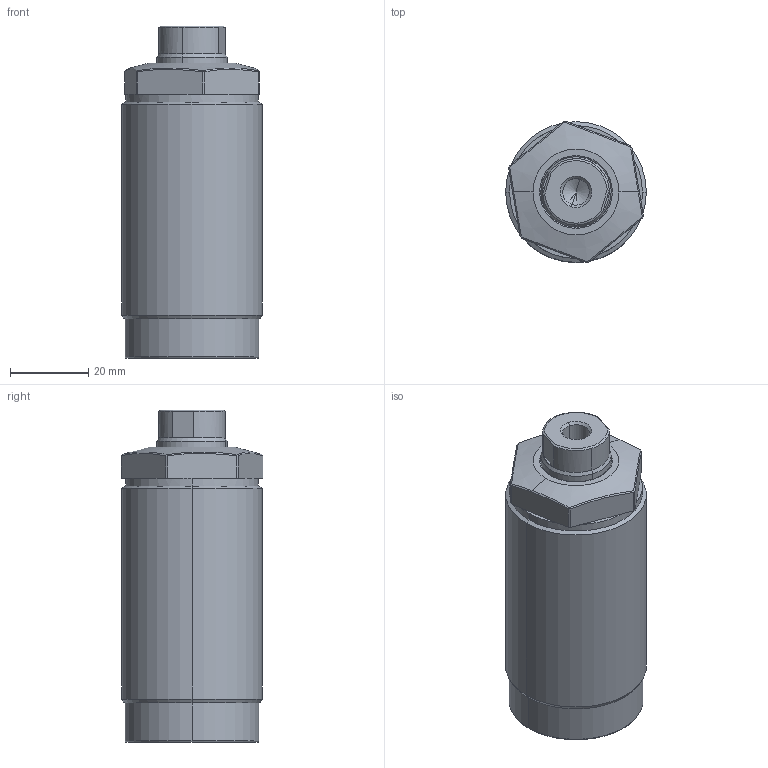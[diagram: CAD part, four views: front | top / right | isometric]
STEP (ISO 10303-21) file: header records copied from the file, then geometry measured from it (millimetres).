
FILE_DESCRIPTION (( 'STEP AP214' ), '1' );
FILE_NAME ('TO3C-M364-L.STEP', '2020-07-10T03:51:17', ( '' ), ( '' ), 'SwSTEP 2.0', 'SolidWorks 2019', '' );
FILE_SCHEMA (( 'AUTOMOTIVE_DESIGN' ));
Length unit declared in the file: millimetre
Products named in the file (3): TO3C-M364-L-BODY; M36-L-PLUNGER; TO3C-M364-L
Assembly tree (2 placements, depth 2):
  TO3C-M364-L
    TO3C-M364-L-BODY
    M36-L-PLUNGER
Bounding box: 36 x 36.23 x 85 mm (x, y, z)
Volume: 72547.4 mm3; surface area: 17393 mm2
Topology: 2 solids, 2 shells, 94 faces, 198 edges, 112 vertices
Faces by surface type: plane 45, cone 23, cylinder 20, bspline 6
Entity records: 3475 total; most frequent: CARTESIAN_POINT 1361, DIRECTION 425, ORIENTED_EDGE 392, EDGE_CURVE 196, AXIS2_PLACEMENT_3D 166, VERTEX_POINT 112, EDGE_LOOP 100, FACE_OUTER_BOUND 94
